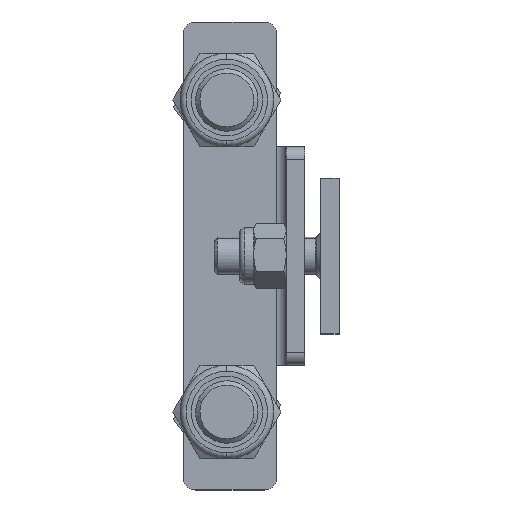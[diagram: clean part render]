
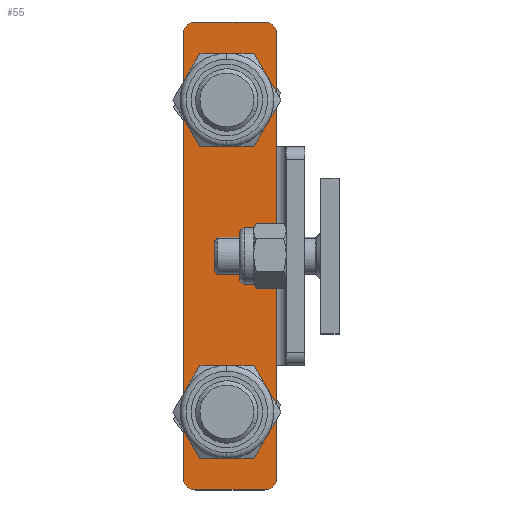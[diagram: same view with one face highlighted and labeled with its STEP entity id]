
A CAD part, left-side view. The second image highlights one B-rep face of the part: STEP entity #55.
In plain terms, the highlighted planar face has unit normal (-1, 0, 0) as drawn and (1, 0, 0) by its records, which use the part's own axes.
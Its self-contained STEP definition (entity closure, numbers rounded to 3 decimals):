
#55 = ADVANCED_FACE ( 'NONE', ( #2700, #2697, #2733 ), #3226, .T. ) ;
#205 = EDGE_CURVE ( 'NONE', #1795, #1187, #4817, .T. ) ;
#207 = EDGE_CURVE ( 'NONE', #1631, #1636, #4812, .T. ) ;
#213 = EDGE_CURVE ( 'NONE', #1187, #1795, #4809, .T. ) ;
#214 = EDGE_CURVE ( 'NONE', #910, #1157, #4806, .T. ) ;
#216 = EDGE_CURVE ( 'NONE', #1157, #910, #4801, .T. ) ;
#220 = EDGE_CURVE ( 'NONE', #1177, #1636, #4796, .T. ) ;
#221 = EDGE_CURVE ( 'NONE', #1177, #1793, #4795, .T. ) ;
#222 = EDGE_CURVE ( 'NONE', #1791, #1624, #4791, .T. ) ;
#223 = EDGE_CURVE ( 'NONE', #1105, #1624, #4793, .T. ) ;
#224 = EDGE_CURVE ( 'NONE', #1793, #1105, #4780, .T. ) ;
#374 = AXIS2_PLACEMENT_3D ( 'NONE', #4162, #4165, #4166 ) ;
#375 = AXIS2_PLACEMENT_3D ( 'NONE', #4170, #4173, #4175 ) ;
#491 = AXIS2_PLACEMENT_3D ( 'NONE', #2209, #2635, #2575 ) ;
#492 = AXIS2_PLACEMENT_3D ( 'NONE', #3112, #3111, #3110 ) ;
#493 = AXIS2_PLACEMENT_3D ( 'NONE', #3106, #3105, #3104 ) ;
#495 = AXIS2_PLACEMENT_3D ( 'NONE', #2564, #2559, #2658 ) ;
#557 = AXIS2_PLACEMENT_3D ( 'NONE', #3229, #3233, #3225 ) ;
#665 = AXIS2_PLACEMENT_3D ( 'NONE', #3117, #3116, #3115 ) ;
#668 = AXIS2_PLACEMENT_3D ( 'NONE', #3136, #3135, #3134 ) ;
#802 = EDGE_CURVE ( 'NONE', #861, #1631, #4757, .T. ) ;
#812 = EDGE_CURVE ( 'NONE', #1399, #861, #4787, .T. ) ;
#813 = EDGE_CURVE ( 'NONE', #1791, #931, #4755, .T. ) ;
#824 = EDGE_CURVE ( 'NONE', #1399, #931, #4837, .T. ) ;
#861 = VERTEX_POINT ( 'NONE', #4163 ) ;
#910 = VERTEX_POINT ( 'NONE', #4113 ) ;
#931 = VERTEX_POINT ( 'NONE', #4117 ) ;
#981 = EDGE_LOOP ( 'NONE', ( #1493, #2900, #2903, #2951, #2917, #2945, #1372, #2895, #2887, #1741 ) ) ;
#1050 = EDGE_LOOP ( 'NONE', ( #2934, #1454 ) ) ;
#1051 = EDGE_LOOP ( 'NONE', ( #2949, #2941 ) ) ;
#1105 = VERTEX_POINT ( 'NONE', #4101 ) ;
#1157 = VERTEX_POINT ( 'NONE', #4094 ) ;
#1177 = VERTEX_POINT ( 'NONE', #4095 ) ;
#1187 = VERTEX_POINT ( 'NONE', #4081 ) ;
#1372 = ORIENTED_EDGE ( 'NONE', *, *, #824, .F. ) ;
#1399 = VERTEX_POINT ( 'NONE', #4010 ) ;
#1454 = ORIENTED_EDGE ( 'NONE', *, *, #205, .F. ) ;
#1493 = ORIENTED_EDGE ( 'NONE', *, *, #220, .F. ) ;
#1624 = VERTEX_POINT ( 'NONE', #3955 ) ;
#1631 = VERTEX_POINT ( 'NONE', #3942 ) ;
#1636 = VERTEX_POINT ( 'NONE', #3939 ) ;
#1741 = ORIENTED_EDGE ( 'NONE', *, *, #207, .T. ) ;
#1791 = VERTEX_POINT ( 'NONE', #3906 ) ;
#1793 = VERTEX_POINT ( 'NONE', #3916 ) ;
#1795 = VERTEX_POINT ( 'NONE', #3910 ) ;
#2209 = CARTESIAN_POINT ( 'NONE',  ( 0., 29., -71. ) ) ;
#2213 = DIRECTION ( 'NONE',  ( 0., 0., -1. ) ) ;
#2287 = CARTESIAN_POINT ( 'NONE',  ( 0., 33., -75. ) ) ;
#2535 = DIRECTION ( 'NONE',  ( 0., 1., 0. ) ) ;
#2559 = DIRECTION ( 'NONE',  ( 1., 0., 0. ) ) ;
#2564 = CARTESIAN_POINT ( 'NONE',  ( 0., 7., -71. ) ) ;
#2575 = DIRECTION ( 'NONE',  ( 0., 1., 0. ) ) ;
#2631 = CARTESIAN_POINT ( 'NONE',  ( 0., 33., 35. ) ) ;
#2635 = DIRECTION ( 'NONE',  ( 1., 0., 0. ) ) ;
#2658 = DIRECTION ( 'NONE',  ( 0., 1., 0. ) ) ;
#2697 = FACE_BOUND ( 'NONE', #1050, .T. ) ;
#2700 = FACE_BOUND ( 'NONE', #1051, .T. ) ;
#2733 = FACE_OUTER_BOUND ( 'NONE', #981, .T. ) ;
#2887 = ORIENTED_EDGE ( 'NONE', *, *, #802, .T. ) ;
#2895 = ORIENTED_EDGE ( 'NONE', *, *, #812, .T. ) ;
#2900 = ORIENTED_EDGE ( 'NONE', *, *, #221, .T. ) ;
#2903 = ORIENTED_EDGE ( 'NONE', *, *, #224, .T. ) ;
#2917 = ORIENTED_EDGE ( 'NONE', *, *, #222, .F. ) ;
#2934 = ORIENTED_EDGE ( 'NONE', *, *, #213, .F. ) ;
#2941 = ORIENTED_EDGE ( 'NONE', *, *, #216, .F. ) ;
#2945 = ORIENTED_EDGE ( 'NONE', *, *, #813, .T. ) ;
#2949 = ORIENTED_EDGE ( 'NONE', *, *, #214, .F. ) ;
#2951 = ORIENTED_EDGE ( 'NONE', *, *, #223, .T. ) ;
#3095 = DIRECTION ( 'NONE',  ( 0., 0., 1. ) ) ;
#3102 = CARTESIAN_POINT ( 'NONE',  ( 0., 3., -75. ) ) ;
#3104 = DIRECTION ( 'NONE',  ( 0., 1., 0. ) ) ;
#3105 = DIRECTION ( 'NONE',  ( 1., 0., 0. ) ) ;
#3106 = CARTESIAN_POINT ( 'NONE',  ( 0., 19., -50. ) ) ;
#3110 = DIRECTION ( 'NONE',  ( 0., 1., 0. ) ) ;
#3111 = DIRECTION ( 'NONE',  ( 1., 0., 0. ) ) ;
#3112 = CARTESIAN_POINT ( 'NONE',  ( 0., 19., -50. ) ) ;
#3115 = DIRECTION ( 'NONE',  ( 0., 1., 0. ) ) ;
#3116 = DIRECTION ( 'NONE',  ( 1., 0., 0. ) ) ;
#3117 = CARTESIAN_POINT ( 'NONE',  ( 0., 19., 50. ) ) ;
#3134 = DIRECTION ( 'NONE',  ( 0., 1., 0. ) ) ;
#3135 = DIRECTION ( 'NONE',  ( 1., 0., 0. ) ) ;
#3136 = CARTESIAN_POINT ( 'NONE',  ( 0., 19., 50. ) ) ;
#3137 = DIRECTION ( 'NONE',  ( 0., 0., -1. ) ) ;
#3138 = CARTESIAN_POINT ( 'NONE',  ( 0., 3., 35. ) ) ;
#3225 = DIRECTION ( 'NONE',  ( 0., 1., 0. ) ) ;
#3226 = PLANE ( 'NONE',  #557 ) ;
#3229 = CARTESIAN_POINT ( 'NONE',  ( 0., 33., 35. ) ) ;
#3233 = DIRECTION ( 'NONE',  ( 1., 0., 0. ) ) ;
#3906 = CARTESIAN_POINT ( 'NONE',  ( 0., 33., 71. ) ) ;
#3910 = CARTESIAN_POINT ( 'NONE',  ( 0., 8.5, 50. ) ) ;
#3916 = CARTESIAN_POINT ( 'NONE',  ( 0., 7., -75. ) ) ;
#3923 = DIRECTION ( 'NONE',  ( 0., 0., -1. ) ) ;
#3930 = CARTESIAN_POINT ( 'NONE',  ( 0., 3., 75. ) ) ;
#3939 = CARTESIAN_POINT ( 'NONE',  ( 0., 3., -35. ) ) ;
#3942 = CARTESIAN_POINT ( 'NONE',  ( 0., 3., 35. ) ) ;
#3955 = CARTESIAN_POINT ( 'NONE',  ( 0., 33., -71. ) ) ;
#4010 = CARTESIAN_POINT ( 'NONE',  ( 0., 7., 75. ) ) ;
#4081 = CARTESIAN_POINT ( 'NONE',  ( 0., 29.5, 50. ) ) ;
#4094 = CARTESIAN_POINT ( 'NONE',  ( 0., 8.5, -50. ) ) ;
#4095 = CARTESIAN_POINT ( 'NONE',  ( 0., 3., -71. ) ) ;
#4101 = CARTESIAN_POINT ( 'NONE',  ( 0., 29., -75. ) ) ;
#4113 = CARTESIAN_POINT ( 'NONE',  ( 0., 29.5, -50. ) ) ;
#4117 = CARTESIAN_POINT ( 'NONE',  ( 0., 29., 75. ) ) ;
#4162 = CARTESIAN_POINT ( 'NONE',  ( 0., 7., 71. ) ) ;
#4163 = CARTESIAN_POINT ( 'NONE',  ( 0., 3., 71. ) ) ;
#4165 = DIRECTION ( 'NONE',  ( 1., 0., 0. ) ) ;
#4166 = DIRECTION ( 'NONE',  ( 0., 1., 0. ) ) ;
#4170 = CARTESIAN_POINT ( 'NONE',  ( 0., 29., 71. ) ) ;
#4173 = DIRECTION ( 'NONE',  ( 1., 0., 0. ) ) ;
#4175 = DIRECTION ( 'NONE',  ( 0., 1., 0. ) ) ;
#4237 = DIRECTION ( 'NONE',  ( 0., 1., 0. ) ) ;
#4249 = CARTESIAN_POINT ( 'NONE',  ( 0., 33., 75. ) ) ;
#4755 = CIRCLE ( 'NONE', #375, 4. ) ;
#4757 = LINE ( 'NONE', #3930, #4758 ) ;
#4758 = VECTOR ( 'NONE', #3923, 1000. ) ;
#4778 = VECTOR ( 'NONE', #2535, 1000. ) ;
#4780 = LINE ( 'NONE', #2287, #4778 ) ;
#4781 = VECTOR ( 'NONE', #2213, 1000. ) ;
#4787 = CIRCLE ( 'NONE', #374, 4. ) ;
#4791 = LINE ( 'NONE', #2631, #4781 ) ;
#4792 = VECTOR ( 'NONE', #3095, 1000. ) ;
#4793 = CIRCLE ( 'NONE', #491, 4. ) ;
#4795 = CIRCLE ( 'NONE', #495, 4. ) ;
#4796 = LINE ( 'NONE', #3102, #4792 ) ;
#4801 = CIRCLE ( 'NONE', #493, 10.5 ) ;
#4806 = CIRCLE ( 'NONE', #492, 10.5 ) ;
#4809 = CIRCLE ( 'NONE', #665, 10.5 ) ;
#4810 = VECTOR ( 'NONE', #3137, 1000. ) ;
#4812 = LINE ( 'NONE', #3138, #4810 ) ;
#4817 = CIRCLE ( 'NONE', #668, 10.5 ) ;
#4837 = LINE ( 'NONE', #4249, #4838 ) ;
#4838 = VECTOR ( 'NONE', #4237, 1000. ) ;
